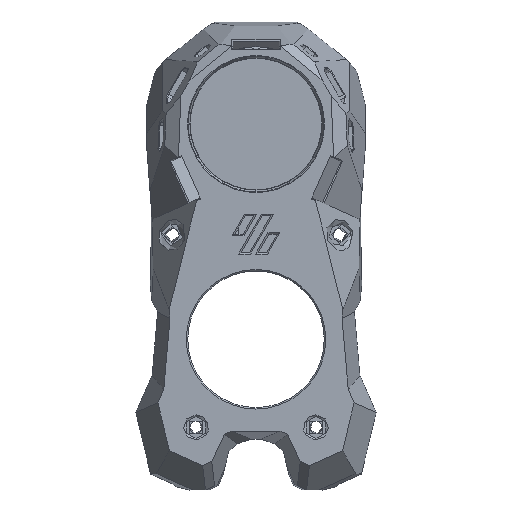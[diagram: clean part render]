
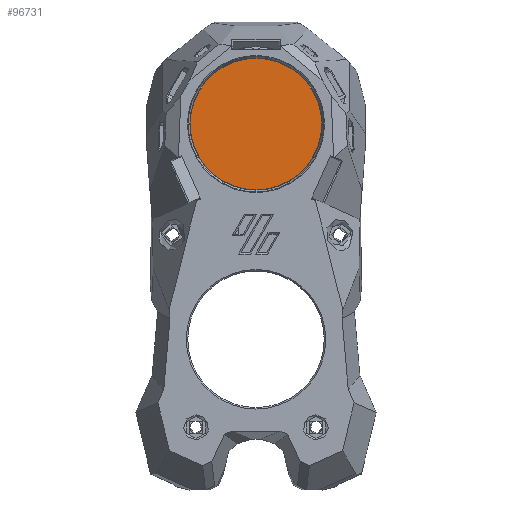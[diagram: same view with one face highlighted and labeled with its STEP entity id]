
A CAD part, front view. The second image highlights one B-rep face of the part: STEP entity #96731.
In plain terms, the highlighted planar face has unit normal (0, -1, 0) as drawn and (1, 0, 0) by its records, which use the part's own axes.
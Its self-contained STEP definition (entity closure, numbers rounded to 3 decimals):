
#11460=PLANE('',#104021);
#15649=FACE_OUTER_BOUND('',#21248,.T.);
#21248=EDGE_LOOP('',(#80629));
#40859=CIRCLE('',#104020,17.83);
#47073=VERTEX_POINT('',#174645);
#58823=EDGE_CURVE('',#47073,#47073,#40859,.T.);
#80629=ORIENTED_EDGE('',*,*,#58823,.T.);
#96731=ADVANCED_FACE('',(#15649),#11460,.T.);
#104020=AXIS2_PLACEMENT_3D('',#174646,#121619,#121620);
#104021=AXIS2_PLACEMENT_3D('',#174648,#121622,#121623);
#121619=DIRECTION('center_axis',(1.,0.,0.));
#121620=DIRECTION('ref_axis',(0.,1.,0.));
#121622=DIRECTION('center_axis',(1.,0.,0.));
#121623=DIRECTION('ref_axis',(0.,1.,0.));
#174645=CARTESIAN_POINT('',(0.5,-17.83,0.));
#174646=CARTESIAN_POINT('Origin',(0.5,0.,0.));
#174648=CARTESIAN_POINT('Origin',(0.5,0.,0.));
